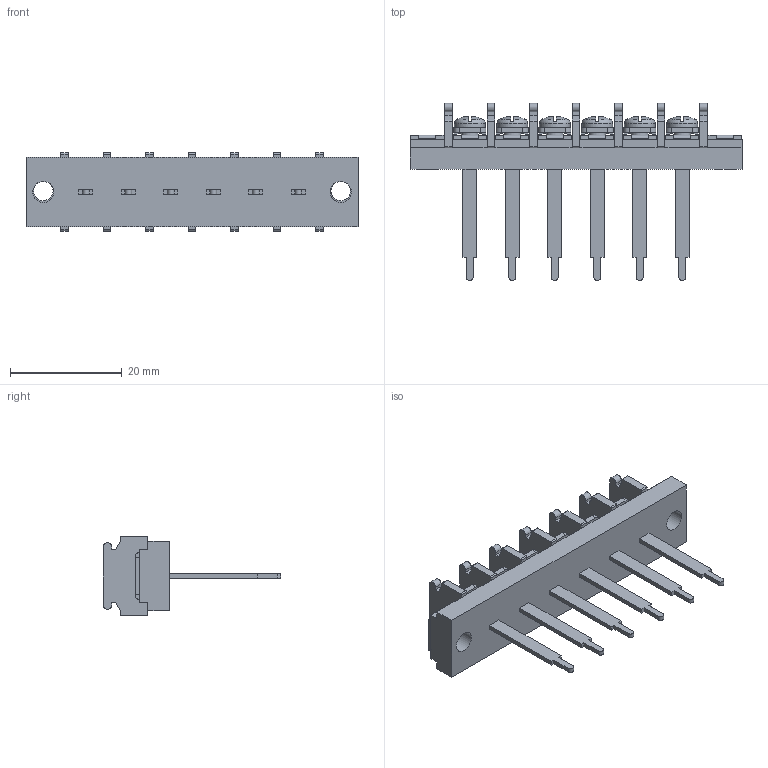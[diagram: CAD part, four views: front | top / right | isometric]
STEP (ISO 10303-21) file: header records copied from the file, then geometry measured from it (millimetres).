
FILE_DESCRIPTION(/* description */ ('Alibre Inc.'),/* implementation_level */ '2;1');
FILE_NAME(/* name */ 'export0',/* time_stamp */ '2015-10-26T16:28:07+09:00',/* author */ (''),/* organization */ (''),/* preprocessor_version */ 'ST-DEVELOPER v14',/* originating_system */ 'Alibre',/* authorisation */ '');
FILE_SCHEMA (('CONFIG_CONTROL_DESIGN'));
Length unit declared in the file: centimetre
Products named in the file (1): ID_1
Bounding box: 59.54 x 31.8 x 14 mm (x, y, z)
Volume: 5404.3 mm3; surface area: 5610.1 mm2
Topology: 1 solids, 17 shells, 1148 faces, 3112 edges, 2044 vertices
Faces by surface type: plane 892, cylinder 104, bspline 104, cone 24, torus 12, sphere 12
Full cylindrical faces by diameter (mm): 3 x6, 3.5 x2, 3.8 x2, 5.5 x6
Entity records: 34201 total; most frequent: CARTESIAN_POINT 7379, ORIENTED_EDGE 6136, DIRECTION 4196, EDGE_CURVE 3068, VECTOR 2276, LINE 2276, VERTEX_POINT 2028, AXIS2_PLACEMENT_3D 1371
